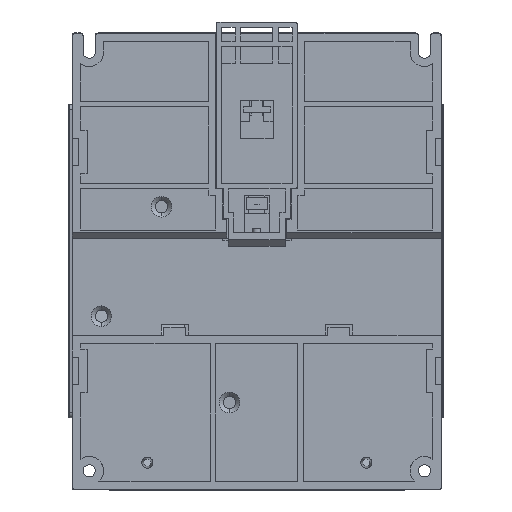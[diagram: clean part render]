
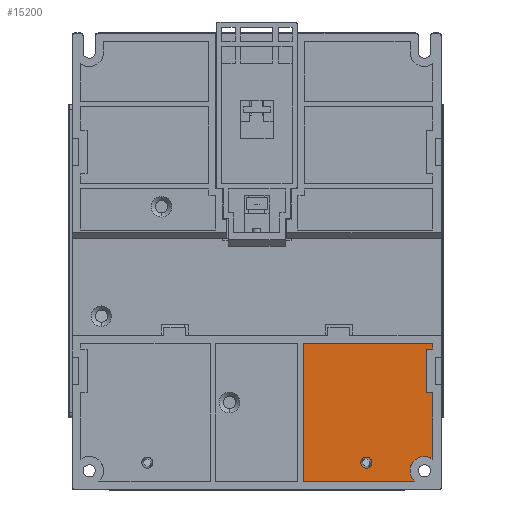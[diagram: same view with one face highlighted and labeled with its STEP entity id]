
A CAD part, front view. The second image highlights one B-rep face of the part: STEP entity #15200.
In plain terms, the highlighted planar face has unit normal (0, -1, 0).
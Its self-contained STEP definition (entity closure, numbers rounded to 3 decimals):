
#4096 = EDGE_CURVE ( 'NONE', #4788, #10910, #84802, .T. ) ;
#4206 = VECTOR ( 'NONE', #6791, 1000. ) ;
#4482 = CARTESIAN_POINT ( 'NONE',  ( 61.25, 5., -71.25 ) ) ;
#4647 = DIRECTION ( 'NONE',  ( 1., 0., 0. ) ) ;
#4788 = VERTEX_POINT ( 'NONE', #71155 ) ;
#5892 = DIRECTION ( 'NONE',  ( 0., 0., -1. ) ) ;
#6337 = ORIENTED_EDGE ( 'NONE', *, *, #61499, .F. ) ;
#6791 = DIRECTION ( 'NONE',  ( 1., 0., 0. ) ) ;
#10910 = VERTEX_POINT ( 'NONE', #53764 ) ;
#11192 = EDGE_CURVE ( 'NONE', #22909, #98197, #87724, .T. ) ;
#12219 = EDGE_CURVE ( 'NONE', #10910, #4788, #65631, .T. ) ;
#14720 = EDGE_CURVE ( 'NONE', #22909, #46715, #82769, .T. ) ;
#15200 = ADVANCED_FACE ( 'NONE', ( #89291, #68094 ), #31308, .F. ) ;
#15254 = DIRECTION ( 'NONE',  ( 0., -1., 0. ) ) ;
#17360 = CARTESIAN_POINT ( 'NONE',  ( 17., 5., -30. ) ) ;
#18432 = ORIENTED_EDGE ( 'NONE', *, *, #12219, .T. ) ;
#18781 = VECTOR ( 'NONE', #72618, 1000. ) ;
#19094 = ORIENTED_EDGE ( 'NONE', *, *, #11192, .T. ) ;
#22154 = VECTOR ( 'NONE', #72546, 1000. ) ;
#22551 = CARTESIAN_POINT ( 'NONE',  ( 67.5, 5., -48. ) ) ;
#22871 = CIRCLE ( 'NONE', #38238, 5.25 ) ;
#22909 = VERTEX_POINT ( 'NONE', #23085 ) ;
#23085 = CARTESIAN_POINT ( 'NONE',  ( 64.447, 5., -72.336 ) ) ;
#24031 = EDGE_CURVE ( 'NONE', #40386, #34186, #61089, .T. ) ;
#25105 = VECTOR ( 'NONE', #33247, 1000. ) ;
#25476 = LINE ( 'NONE', #22551, #4206 ) ;
#25830 = CARTESIAN_POINT ( 'NONE',  ( 61.25, 5., -76.5 ) ) ;
#28748 = CARTESIAN_POINT ( 'NONE',  ( 71.335, 5., -80.447 ) ) ;
#28784 = EDGE_LOOP ( 'NONE', ( #18432, #30927 ) ) ;
#30927 = ORIENTED_EDGE ( 'NONE', *, *, #4096, .T. ) ;
#31308 = PLANE ( 'NONE',  #82225 ) ;
#32553 = CARTESIAN_POINT ( 'NONE',  ( 62., 5., -45. ) ) ;
#33247 = DIRECTION ( 'NONE',  ( 0., 0., 1. ) ) ;
#33847 = DIRECTION ( 'NONE',  ( 0., 0., 1. ) ) ;
#34186 = VERTEX_POINT ( 'NONE', #85759 ) ;
#35206 = CARTESIAN_POINT ( 'NONE',  ( 40., 5., -73.5 ) ) ;
#35499 = EDGE_CURVE ( 'NONE', #46715, #90146, #22871, .T. ) ;
#36942 = CARTESIAN_POINT ( 'NONE',  ( 64.447, 5., -32. ) ) ;
#37433 = EDGE_CURVE ( 'NONE', #40386, #46971, #46235, .T. ) ;
#38238 = AXIS2_PLACEMENT_3D ( 'NONE', #62890, #15254, #70903 ) ;
#39650 = DIRECTION ( 'NONE',  ( 0., 1., 0. ) ) ;
#40386 = VERTEX_POINT ( 'NONE', #36942 ) ;
#41865 = VECTOR ( 'NONE', #4647, 1000. ) ;
#43174 = DIRECTION ( 'NONE',  ( 0., 0., -1. ) ) ;
#43352 = LINE ( 'NONE', #32553, #22154 ) ;
#45054 = EDGE_CURVE ( 'NONE', #34186, #48234, #43352, .T. ) ;
#46235 = LINE ( 'NONE', #56878, #25105 ) ;
#46715 = VERTEX_POINT ( 'NONE', #4482 ) ;
#46971 = VERTEX_POINT ( 'NONE', #48692 ) ;
#47273 = AXIS2_PLACEMENT_3D ( 'NONE', #35206, #90808, #43174 ) ;
#47882 = VECTOR ( 'NONE', #100086, 1000. ) ;
#48066 = ORIENTED_EDGE ( 'NONE', *, *, #35499, .F. ) ;
#48234 = VERTEX_POINT ( 'NONE', #66881 ) ;
#48574 = CARTESIAN_POINT ( 'NONE',  ( 65., 5., -32. ) ) ;
#48692 = CARTESIAN_POINT ( 'NONE',  ( 64.447, 5., -30. ) ) ;
#50645 = CARTESIAN_POINT ( 'NONE',  ( 17., 5., -80.447 ) ) ;
#51875 = CARTESIAN_POINT ( 'NONE',  ( 57.788, 5., -80.447 ) ) ;
#53184 = LINE ( 'NONE', #73034, #71874 ) ;
#53628 = DIRECTION ( 'NONE',  ( 0., 1., 0. ) ) ;
#53764 = CARTESIAN_POINT ( 'NONE',  ( 40., 5., -75.5 ) ) ;
#54445 = CARTESIAN_POINT ( 'NONE',  ( 64.447, 5., -48. ) ) ;
#56878 = CARTESIAN_POINT ( 'NONE',  ( 64.447, 5., 87.335 ) ) ;
#58790 = DIRECTION ( 'NONE',  ( 0., 0., 1. ) ) ;
#61089 = LINE ( 'NONE', #48574, #18781 ) ;
#61499 = EDGE_CURVE ( 'NONE', #48234, #98197, #25476, .T. ) ;
#62890 = CARTESIAN_POINT ( 'NONE',  ( 61.25, 5., -76.5 ) ) ;
#63360 = VERTEX_POINT ( 'NONE', #50645 ) ;
#65631 = CIRCLE ( 'NONE', #102641, 2. ) ;
#66881 = CARTESIAN_POINT ( 'NONE',  ( 62., 5., -48. ) ) ;
#68094 = FACE_BOUND ( 'NONE', #28784, .T. ) ;
#70903 = DIRECTION ( 'NONE',  ( 0., 0., 1. ) ) ;
#71155 = CARTESIAN_POINT ( 'NONE',  ( 40., 5., -71.5 ) ) ;
#71312 = CARTESIAN_POINT ( 'NONE',  ( 0., 5., 0. ) ) ;
#71874 = VECTOR ( 'NONE', #89019, 1000. ) ;
#72546 = DIRECTION ( 'NONE',  ( 0., 0., -1. ) ) ;
#72618 = DIRECTION ( 'NONE',  ( -1., 0., 0. ) ) ;
#73034 = CARTESIAN_POINT ( 'NONE',  ( -67.5, 5., -30. ) ) ;
#74826 = CARTESIAN_POINT ( 'NONE',  ( 17., 5., -80.447 ) ) ;
#76247 = ORIENTED_EDGE ( 'NONE', *, *, #37433, .T. ) ;
#77176 = LINE ( 'NONE', #74826, #98310 ) ;
#77414 = EDGE_CURVE ( 'NONE', #63360, #95987, #77176, .T. ) ;
#78204 = ORIENTED_EDGE ( 'NONE', *, *, #24031, .F. ) ;
#80515 = ORIENTED_EDGE ( 'NONE', *, *, #77414, .F. ) ;
#80786 = ORIENTED_EDGE ( 'NONE', *, *, #14720, .F. ) ;
#81523 = DIRECTION ( 'NONE',  ( 0., -1., 0. ) ) ;
#82225 = AXIS2_PLACEMENT_3D ( 'NONE', #71312, #39650, #95270 ) ;
#82769 = CIRCLE ( 'NONE', #86136, 5.25 ) ;
#83682 = ORIENTED_EDGE ( 'NONE', *, *, #45054, .F. ) ;
#84802 = CIRCLE ( 'NONE', #47273, 2. ) ;
#85759 = CARTESIAN_POINT ( 'NONE',  ( 62., 5., -32. ) ) ;
#86136 = AXIS2_PLACEMENT_3D ( 'NONE', #25830, #81523, #33847 ) ;
#86636 = LINE ( 'NONE', #28748, #41865 ) ;
#87724 = LINE ( 'NONE', #92397, #47882 ) ;
#89019 = DIRECTION ( 'NONE',  ( 1., 0., 0. ) ) ;
#89291 = FACE_OUTER_BOUND ( 'NONE', #90448, .T. ) ;
#90146 = VERTEX_POINT ( 'NONE', #51875 ) ;
#90448 = EDGE_LOOP ( 'NONE', ( #80786, #19094, #6337, #83682, #78204, #76247, #96011, #80515, #101666, #48066 ) ) ;
#90808 = DIRECTION ( 'NONE',  ( 0., 1., 0. ) ) ;
#92397 = CARTESIAN_POINT ( 'NONE',  ( 64.447, 5., 87.335 ) ) ;
#93901 = EDGE_CURVE ( 'NONE', #95987, #46971, #53184, .T. ) ;
#95270 = DIRECTION ( 'NONE',  ( 1., 0., 0. ) ) ;
#95987 = VERTEX_POINT ( 'NONE', #17360 ) ;
#96011 = ORIENTED_EDGE ( 'NONE', *, *, #93901, .F. ) ;
#98197 = VERTEX_POINT ( 'NONE', #54445 ) ;
#98310 = VECTOR ( 'NONE', #58790, 1000. ) ;
#100086 = DIRECTION ( 'NONE',  ( 0., 0., 1. ) ) ;
#101156 = EDGE_CURVE ( 'NONE', #63360, #90146, #86636, .T. ) ;
#101329 = CARTESIAN_POINT ( 'NONE',  ( 40., 5., -73.5 ) ) ;
#101666 = ORIENTED_EDGE ( 'NONE', *, *, #101156, .T. ) ;
#102641 = AXIS2_PLACEMENT_3D ( 'NONE', #101329, #53628, #5892 ) ;
